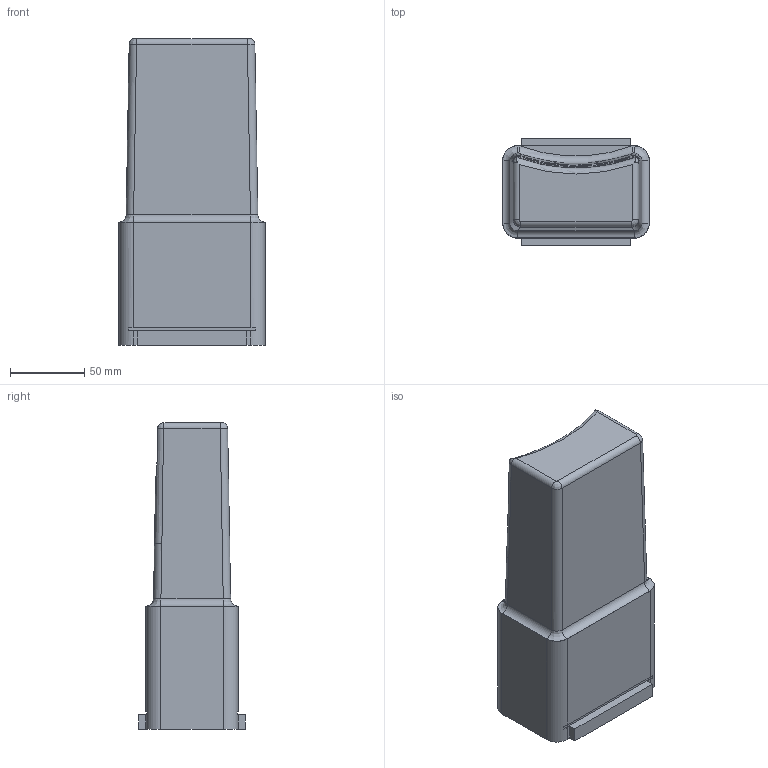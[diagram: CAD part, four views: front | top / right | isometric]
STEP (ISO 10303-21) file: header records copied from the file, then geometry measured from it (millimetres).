
FILE_DESCRIPTION(('STEP AP203'), '1');
FILE_NAME('18 Âñòàâêà', '', ('UNSPECIFIED'), ('UNSPECIFIED'), 'C3D Converter', 'C3D Toolkit', '');
FILE_SCHEMA(('CONFIG_CONTROL_DESIGN'));
Length unit declared in the file: millimetre
Products named in the file (1): ПФН 295 106/18
Bounding box: 99 x 72 x 207.1 mm (x, y, z)
Volume: 1001312.7 mm3; surface area: 70772.7 mm2
Topology: 1 solids, 1 shells, 60 faces, 153 edges, 96 vertices
Faces by surface type: plane 28, cylinder 16, bspline 12, cone 2, torus 2
Entity records: 3561 total; most frequent: CARTESIAN_POINT 1695, ORIENTED_EDGE 306, DIRECTION 246, EDGE_CURVE 153, VERTEX_POINT 96, AXIS2_PLACEMENT_3D 83, LINE 80, VECTOR 80
